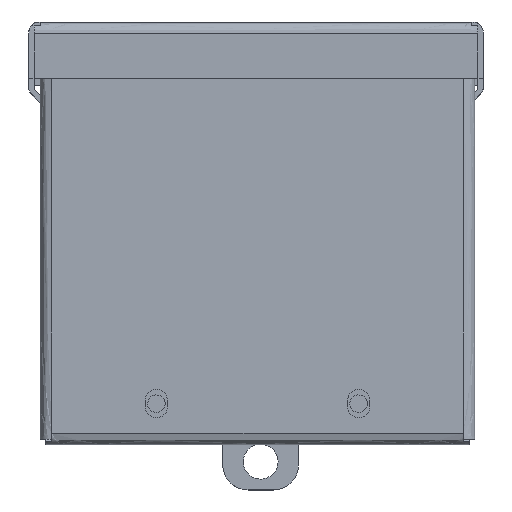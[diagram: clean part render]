
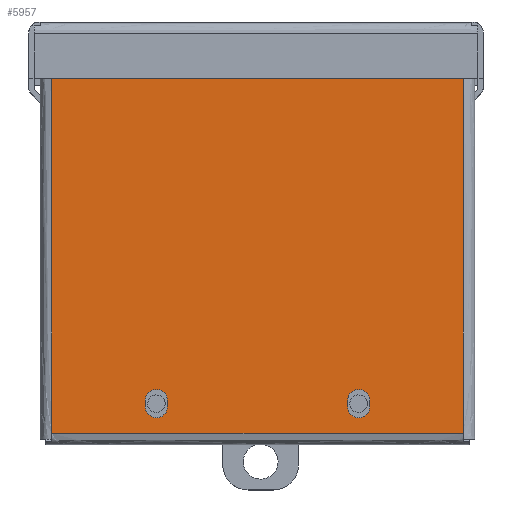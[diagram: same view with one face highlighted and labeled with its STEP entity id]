
A CAD part, top view. The second image highlights one B-rep face of the part: STEP entity #5957.
In plain terms, the highlighted free-form (B-spline) face has degree [1, 1] with [2, 2] control points.
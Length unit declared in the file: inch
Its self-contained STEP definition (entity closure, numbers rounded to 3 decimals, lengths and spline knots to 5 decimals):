
#5172=CARTESIAN_POINT('V71',(0.9855,-0.055,
   3.622));
#5173=VERTEX_POINT('V71',#5172);
#5181=CARTESIAN_POINT('V74',(1.2045,-0.055,
   3.622));
#5182=VERTEX_POINT('V74',#5181);
#5183=CARTESIAN_POINT('E88',(1.2045,-0.055,
   3.622));
#5184=CARTESIAN_POINT('E88',(1.2045,-0.055,
   3.5125));
#5185=CARTESIAN_POINT('E88',(1.095,-0.055,
   3.5125));
#5186=CARTESIAN_POINT('E88',(0.9855,-0.055,
   3.5125));
#5187=CARTESIAN_POINT('E88',(0.9855,-0.055,
   3.622));
#5195=(BOUNDED_CURVE()B_SPLINE_CURVE(2,(#5183,#5184,#5185,#5186,
   #5187),.CIRCULAR_ARC.,.F.,.U.)B_SPLINE_CURVE_WITH_KNOTS((3,2,3),
   (0.0,0.5,1.0),.UNSPECIFIED.)CURVE()
   GEOMETRIC_REPRESENTATION_ITEM()RATIONAL_B_SPLINE_CURVE((1.0,
   0.707,1.0,0.707,1.0))REPRESENTATION_ITEM(
   'E88'));
#5196=EDGE_CURVE('E88',#5182,#5173,#5195,.T.);
#5229=CARTESIAN_POINT('V73',(1.2045,-0.055,
   3.684));
#5230=VERTEX_POINT('V73',#5229);
#5231=CARTESIAN_POINT('E87',(1.2045,-0.055,
   3.684));
#5232=CARTESIAN_POINT('E87',(1.2045,-0.055,
   3.622));
#5233=QUASI_UNIFORM_CURVE('E87',1,(#5231,#5232),.POLYLINE_FORM.,.F.,
   .U.);
#5234=EDGE_CURVE('E87',#5230,#5182,#5233,.T.);
#5270=CARTESIAN_POINT('V72',(0.9855,-0.055,
   3.684));
#5271=VERTEX_POINT('V72',#5270);
#5272=CARTESIAN_POINT('E86',(0.9855,-0.055,
   3.684));
#5273=CARTESIAN_POINT('E86',(0.9855,-0.055,
   3.7935));
#5274=CARTESIAN_POINT('E86',(1.095,-0.055,
   3.7935));
#5275=CARTESIAN_POINT('E86',(1.2045,-0.055,
   3.7935));
#5276=CARTESIAN_POINT('E86',(1.2045,-0.055,
   3.684));
#5284=(BOUNDED_CURVE()B_SPLINE_CURVE(2,(#5272,#5273,#5274,#5275,
   #5276),.CIRCULAR_ARC.,.F.,.U.)B_SPLINE_CURVE_WITH_KNOTS((3,2,3),
   (0.0,0.5,1.0),.UNSPECIFIED.)CURVE()
   GEOMETRIC_REPRESENTATION_ITEM()RATIONAL_B_SPLINE_CURVE((1.0,
   0.707,1.0,0.707,1.0))REPRESENTATION_ITEM(
   'E86'));
#5285=EDGE_CURVE('E86',#5271,#5230,#5284,.T.);
#5318=CARTESIAN_POINT('E85',(0.9855,-0.055,
   3.622));
#5319=CARTESIAN_POINT('E85',(0.9855,-0.055,
   3.684));
#5320=QUASI_UNIFORM_CURVE('E85',1,(#5318,#5319),.POLYLINE_FORM.,.F.,
   .U.);
#5321=EDGE_CURVE('E85',#5173,#5271,#5320,.T.);
#5350=CARTESIAN_POINT('V67',(3.2045,-0.055,
   3.684));
#5351=VERTEX_POINT('V67',#5350);
#5359=CARTESIAN_POINT('V70',(2.9855,-0.055,
   3.684));
#5360=VERTEX_POINT('V70',#5359);
#5361=CARTESIAN_POINT('E84',(2.9855,-0.055,
   3.684));
#5362=CARTESIAN_POINT('E84',(2.9855,-0.055,
   3.7935));
#5363=CARTESIAN_POINT('E84',(3.095,-0.055,
   3.7935));
#5364=CARTESIAN_POINT('E84',(3.2045,-0.055,
   3.7935));
#5365=CARTESIAN_POINT('E84',(3.2045,-0.055,
   3.684));
#5373=(BOUNDED_CURVE()B_SPLINE_CURVE(2,(#5361,#5362,#5363,#5364,
   #5365),.CIRCULAR_ARC.,.F.,.U.)B_SPLINE_CURVE_WITH_KNOTS((3,2,3),
   (0.0,0.5,1.0),.UNSPECIFIED.)CURVE()
   GEOMETRIC_REPRESENTATION_ITEM()RATIONAL_B_SPLINE_CURVE((1.0,
   0.707,1.0,0.707,1.0))REPRESENTATION_ITEM(
   'E84'));
#5374=EDGE_CURVE('E84',#5360,#5351,#5373,.T.);
#5407=CARTESIAN_POINT('V69',(2.9855,-0.055,
   3.622));
#5408=VERTEX_POINT('V69',#5407);
#5409=CARTESIAN_POINT('E83',(2.9855,-0.055,
   3.622));
#5410=CARTESIAN_POINT('E83',(2.9855,-0.055,
   3.684));
#5411=QUASI_UNIFORM_CURVE('E83',1,(#5409,#5410),.POLYLINE_FORM.,.F.,
   .U.);
#5412=EDGE_CURVE('E83',#5408,#5360,#5411,.T.);
#5448=CARTESIAN_POINT('V68',(3.2045,-0.055,
   3.622));
#5449=VERTEX_POINT('V68',#5448);
#5450=CARTESIAN_POINT('E82',(3.2045,-0.055,
   3.622));
#5451=CARTESIAN_POINT('E82',(3.2045,-0.055,
   3.5125));
#5452=CARTESIAN_POINT('E82',(3.095,-0.055,
   3.5125));
#5453=CARTESIAN_POINT('E82',(2.9855,-0.055,
   3.5125));
#5454=CARTESIAN_POINT('E82',(2.9855,-0.055,
   3.622));
#5462=(BOUNDED_CURVE()B_SPLINE_CURVE(2,(#5450,#5451,#5452,#5453,
   #5454),.CIRCULAR_ARC.,.F.,.U.)B_SPLINE_CURVE_WITH_KNOTS((3,2,3),
   (0.0,0.5,1.0),.UNSPECIFIED.)CURVE()
   GEOMETRIC_REPRESENTATION_ITEM()RATIONAL_B_SPLINE_CURVE((1.0,
   0.707,1.0,0.707,1.0))REPRESENTATION_ITEM(
   'E82'));
#5463=EDGE_CURVE('E82',#5449,#5408,#5462,.T.);
#5496=CARTESIAN_POINT('E81',(3.2045,-0.055,
   3.684));
#5497=CARTESIAN_POINT('E81',(3.2045,-0.055,
   3.622));
#5498=QUASI_UNIFORM_CURVE('E81',1,(#5496,#5497),.POLYLINE_FORM.,.F.,
   .U.);
#5499=EDGE_CURVE('E81',#5351,#5449,#5498,.T.);
#5854=CARTESIAN_POINT('V44',(0.06,-0.055,
   3.945));
#5855=VERTEX_POINT('V44',#5854);
#5892=CARTESIAN_POINT('V45',(0.06,-0.055,
   0.0));
#5893=VERTEX_POINT('V45',#5892);
#5894=CARTESIAN_POINT('E52',(0.06,-0.055,
   0.0));
#5895=CARTESIAN_POINT('E52',(0.06,-0.055,
   3.945));
#5896=QUASI_UNIFORM_CURVE('E52',1,(#5894,#5895),.POLYLINE_FORM.,.F.,
   .U.);
#5897=EDGE_CURVE('E52',#5893,#5855,#5896,.T.);
#5918=CARTESIAN_POINT('F21',(4.13,-0.055,
   0.0));
#5919=CARTESIAN_POINT('F21',(4.13,-0.055,
   3.945));
#5920=CARTESIAN_POINT('F21',(0.06,-0.055,
   0.0));
#5921=CARTESIAN_POINT('F21',(0.06,-0.055,
   3.945));
#5922=B_SPLINE_SURFACE_WITH_KNOTS('F21',1,1,((#5918,#5920),(#5919,
   #5921)),.PLANE_SURF.,.F.,.F.,.U.,(2,2),(2,2),(
   0.0003,0.9997),(0.00029,
   0.99971),.UNSPECIFIED.);
#5923=CARTESIAN_POINT('V41',(4.13,-0.055,
   0.0));
#5924=VERTEX_POINT('V41',#5923);
#5925=CARTESIAN_POINT('E80',(0.06,-0.055,
   0.0));
#5926=CARTESIAN_POINT('E80',(4.13,-0.055,
   0.0));
#5927=QUASI_UNIFORM_CURVE('E80',1,(#5925,#5926),.POLYLINE_FORM.,.F.,
   .U.);
#5928=EDGE_CURVE('E80',#5893,#5924,#5927,.T.);
#5929=ORIENTED_EDGE('E80',*,*,#5928,.T.);
#5930=CARTESIAN_POINT('V40',(4.13,-0.055,
   3.945));
#5931=VERTEX_POINT('V40',#5930);
#5932=CARTESIAN_POINT('E48',(4.13,-0.055,
   3.945));
#5933=CARTESIAN_POINT('E48',(4.13,-0.055,
   0.0));
#5934=QUASI_UNIFORM_CURVE('E48',1,(#5932,#5933),.POLYLINE_FORM.,.F.,
   .U.);
#5935=EDGE_CURVE('E48',#5931,#5924,#5934,.T.);
#5936=ORIENTED_EDGE('E48',*,*,#5935,.F.);
#5937=CARTESIAN_POINT('E60',(0.06,-0.055,
   3.945));
#5938=CARTESIAN_POINT('E60',(4.13,-0.055,
   3.945));
#5939=QUASI_UNIFORM_CURVE('E60',1,(#5937,#5938),.POLYLINE_FORM.,.F.,
   .U.);
#5940=EDGE_CURVE('E60',#5855,#5931,#5939,.T.);
#5941=ORIENTED_EDGE('E60',*,*,#5940,.F.);
#5942=ORIENTED_EDGE('E52',*,*,#5897,.F.);
#5943=EDGE_LOOP('F21',(#5929,#5936,#5941,#5942));
#5944=FACE_OUTER_BOUND('F21',#5943,.T.);
#5945=ORIENTED_EDGE('E81',*,*,#5499,.T.);
#5946=ORIENTED_EDGE('E82',*,*,#5463,.T.);
#5947=ORIENTED_EDGE('E83',*,*,#5412,.T.);
#5948=ORIENTED_EDGE('E84',*,*,#5374,.T.);
#5949=EDGE_LOOP('F21',(#5945,#5946,#5947,#5948));
#5950=FACE_BOUND('F21',#5949,.T.);
#5951=ORIENTED_EDGE('E85',*,*,#5321,.T.);
#5952=ORIENTED_EDGE('E86',*,*,#5285,.T.);
#5953=ORIENTED_EDGE('E87',*,*,#5234,.T.);
#5954=ORIENTED_EDGE('E88',*,*,#5196,.T.);
#5955=EDGE_LOOP('F21',(#5951,#5952,#5953,#5954));
#5956=FACE_BOUND('F21',#5955,.T.);
#5957=ADVANCED_FACE('F21',(#5944,#5950,#5956),#5922,.T.);
